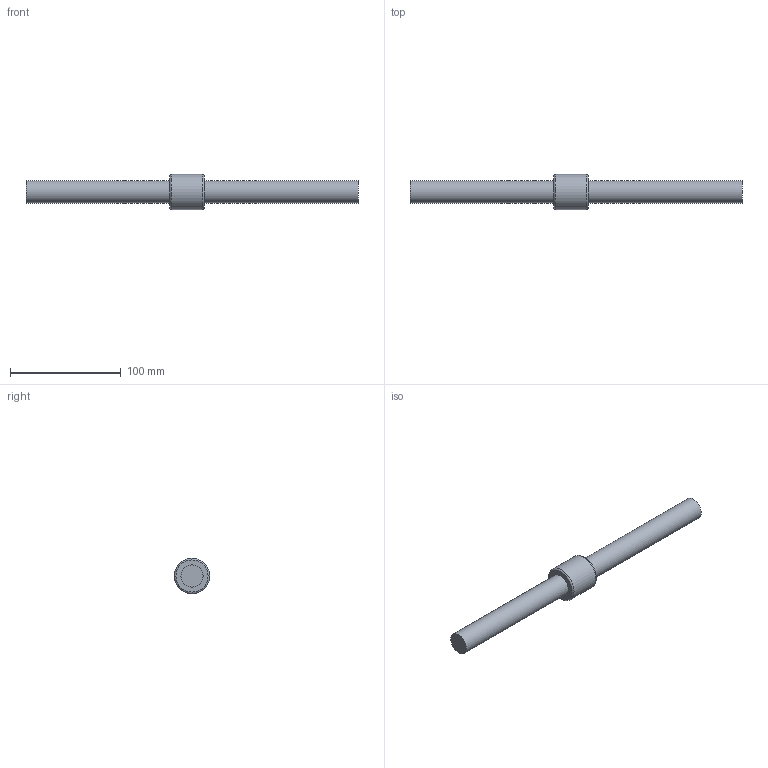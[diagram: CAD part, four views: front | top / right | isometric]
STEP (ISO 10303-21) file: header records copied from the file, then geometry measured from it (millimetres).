
FILE_DESCRIPTION((''),'2;1');
FILE_NAME('D:\製品 (図面)\カタログ用3D\ネジ関連\STEP形式\TMS\TMS20.stp','2010-06-02T15:32:11',('Tsuchiya'),(''),'Autodesk Inventor 10','Autodesk Inventor 10','');
FILE_SCHEMA(('AUTOMOTIVE_DESIGN { 1 0 10303 214 1 1 1 1 }'));
Length unit declared in the file: millimetre
Products named in the file (3): TMS20; TMS201; TMS202
Assembly tree (2 placements, depth 2):
  TMS20
    TMS201
    TMS202
Bounding box: 300 x 32 x 32 mm (x, y, z)
Volume: 109345.5 mm3; surface area: 25390.9 mm2
Topology: 2 solids, 2 shells, 9 faces, 13 edges, 8 vertices
Faces by surface type: plane 4, cylinder 3, torus 2
Full cylindrical faces by diameter (mm): 20 x2, 32 x1
Entity records: 254 total; most frequent: DIRECTION 44, CARTESIAN_POINT 30, AXIS2_PLACEMENT_3D 22, ORIENTED_EDGE 16, EDGE_LOOP 16, FACE_OUTER_BOUND 9, ADVANCED_FACE 9, VERTEX_POINT 8
